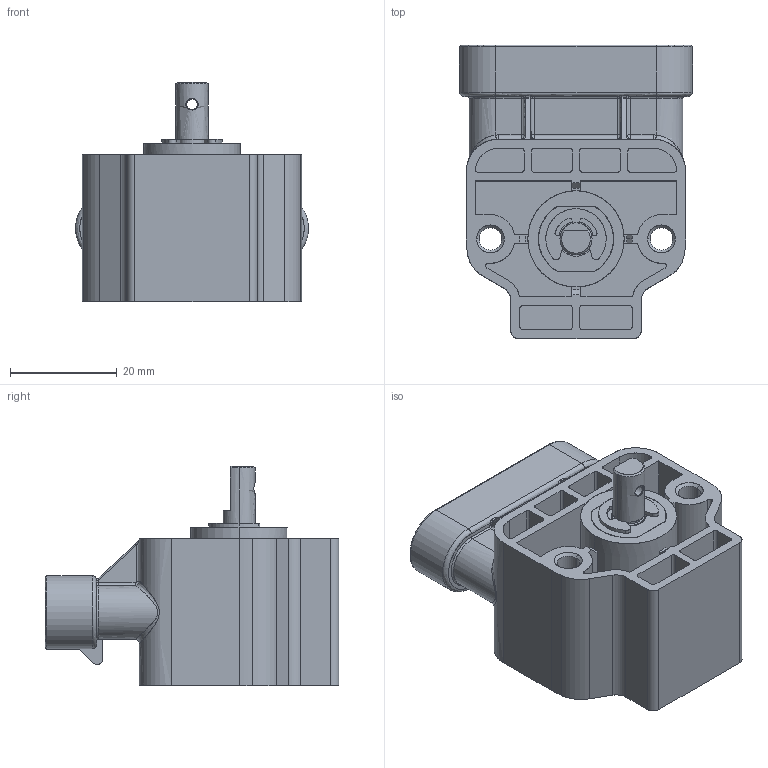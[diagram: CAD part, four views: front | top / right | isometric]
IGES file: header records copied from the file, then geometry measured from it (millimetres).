
Start section: SolidWorks IGES file using analytic representation for surfaces
Global section: file name: \\srv4gefran\dir-cat\Disegni Catalogo\Mobile\GRA\GRA 6P\GRA 6P AMP.IGS; native system: SolidWorks 2015; preprocessor: SolidWorks 2015; author: Loda-w1; date: 160202.122814; units: millimetre
Bounding box: 43.6 x 54.9 x 41.07 mm (x, y, z)
Surface area: 18814.3 mm2 (no closed solid volume)
Topology: 0 solids, 0 shells, 506 faces, 6256 edges, 7550 vertices
Faces by surface type: bspline 335, revolution 171
